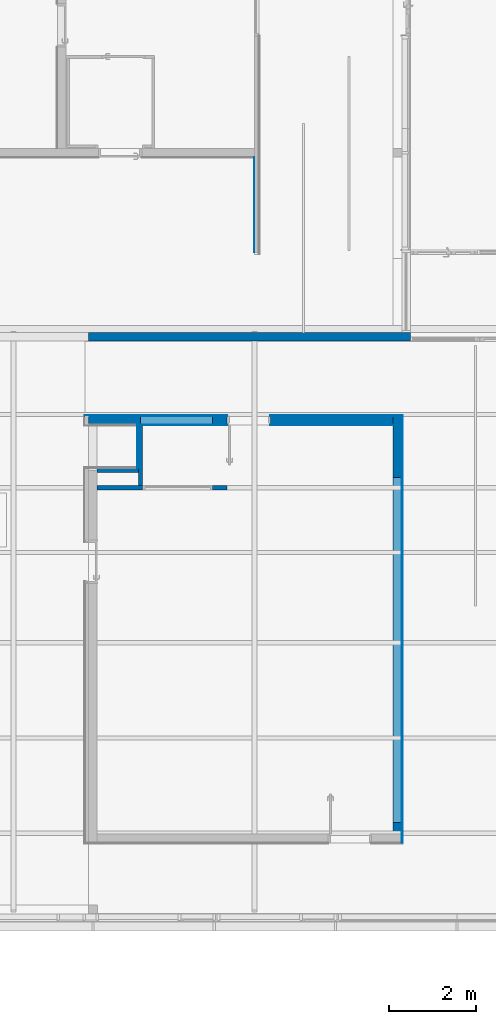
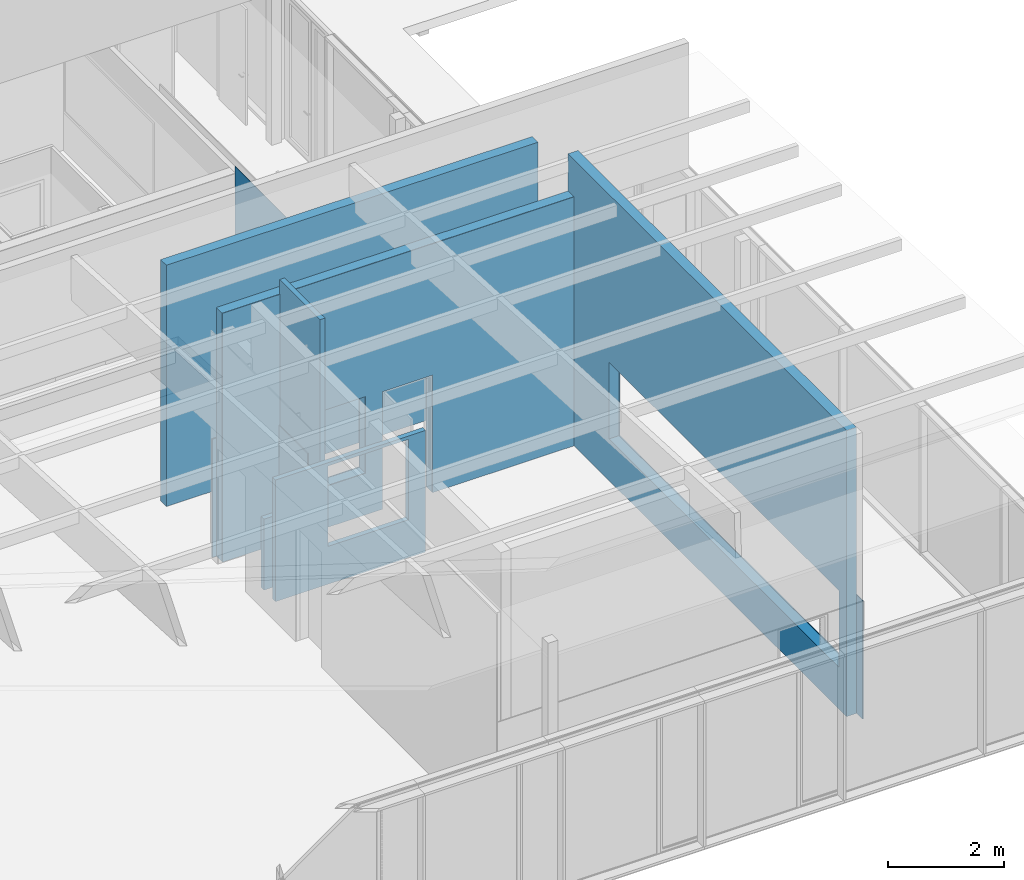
# One storey, part 91 of 240: 15 walls, 9 openings.
"""IFC2X3 building model written with IfcOpenShell, lengths in centimetres."""

from ifc_helpers import new_model, entity, si_unit, converted_unit, derived_unit, direction, frame, frame_2d, origin, place, context, subcontext, project, spatial, rectangle, extrude, material, layer, layer_set, layer_usage, type_object, element, save


model = new_model("IFC2X3")

# Units and contexts
model_context = context("Model", 3, precision=0.001, world=origin(), true_north=direction((6.12303176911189e-17, 1.0)))
body_context = subcontext(model_context, "Body", "Model", "MODEL_VIEW")
ifc_project = project(units=[si_unit("LENGTHUNIT", "METRE", prefix="CENTI"), si_unit("AREAUNIT", "SQUARE_METRE"), si_unit("VOLUMEUNIT", "CUBIC_METRE"), converted_unit("PLANEANGLEUNIT", "DEGREE", entity("IfcRatioMeasure", 0.0174532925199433), si_unit("PLANEANGLEUNIT", "RADIAN"), dimensions=[0, 0, 0, 0, 0, 0, 0]), si_unit("MASSUNIT", "GRAM", prefix="KILO"), derived_unit("MASSDENSITYUNIT", [(si_unit("MASSUNIT", "GRAM", prefix="KILO"), 1), (si_unit("LENGTHUNIT", "METRE"), -3)]), si_unit("TIMEUNIT", "SECOND"), si_unit("FREQUENCYUNIT", "HERTZ"), si_unit("THERMODYNAMICTEMPERATUREUNIT", "DEGREE_CELSIUS"), derived_unit("THERMALTRANSMITTANCEUNIT", [(si_unit("MASSUNIT", "GRAM", prefix="KILO"), 1), (si_unit("THERMODYNAMICTEMPERATUREUNIT", "KELVIN"), -1), (si_unit("TIMEUNIT", "SECOND"), -3)]), derived_unit("VOLUMETRICFLOWRATEUNIT", [(si_unit("LENGTHUNIT", "METRE"), 3), (si_unit("TIMEUNIT", "SECOND"), -1)]), si_unit("ELECTRICCURRENTUNIT", "AMPERE"), si_unit("ELECTRICVOLTAGEUNIT", "VOLT"), si_unit("POWERUNIT", "WATT"), si_unit("FORCEUNIT", "NEWTON", prefix="KILO"), si_unit("ILLUMINANCEUNIT", "LUX"), si_unit("LUMINOUSFLUXUNIT", "LUMEN"), si_unit("LUMINOUSINTENSITYUNIT", "CANDELA"), derived_unit("USERDEFINED", [(si_unit("MASSUNIT", "GRAM", prefix="KILO"), -1), (si_unit("LENGTHUNIT", "METRE"), -2), (si_unit("TIMEUNIT", "SECOND"), 3), (si_unit("LUMINOUSFLUXUNIT", "LUMEN"), 1)]), derived_unit("LINEARVELOCITYUNIT", [(si_unit("LENGTHUNIT", "METRE"), 1), (si_unit("TIMEUNIT", "SECOND"), -1)]), si_unit("PRESSUREUNIT", "PASCAL"), derived_unit("USERDEFINED", [(si_unit("LENGTHUNIT", "METRE"), -2), (si_unit("MASSUNIT", "GRAM", prefix="KILO"), 1), (si_unit("TIMEUNIT", "SECOND"), -2)])], contexts=[model_context])

# Site, building, storey
site_placement = place(None, frame((-2781.94577612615, 7442.24238424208, 0.0)))
site = spatial("IfcSite", under=ifc_project, at=site_placement, Name="Default", CompositionType="ELEMENT")
building_placement = place(site_placement, origin())
building = spatial("IfcBuilding", under=site, at=building_placement, CompositionType="ELEMENT")
storey_placement = place(building_placement, origin())
storey = spatial("IfcBuildingStorey", under=building, at=storey_placement, Name="N00 - COO", CompositionType="ELEMENT", Elevation=0.0)

# Wall
ifc_material_1 = material(Name="01 - Maçonnerie")
ifc_layer_1 = layer(ifc_material_1, 20.0)
ifc_layer_set_1 = layer_set([ifc_layer_1], Name="Mur de base:04 - Structure - béton - 20cm")
ifc_layer_usage_1 = layer_usage(ifc_layer_set_1, "AXIS2", "NEGATIVE", 10.0)
wall_type_1 = type_object("IfcWallType", Name="Mur de base:04 - Structure - béton - 20cm", PredefinedType="STANDARD", material=ifc_layer_set_1)
wall_1_placement = place(building_placement, frame((-9624.98738089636, -4215.50027342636, 0.0)))
element("IfcWallStandardCase", 1, at=wall_1_placement, inside=storey, type_object=wall_type_1, material=ifc_layer_usage_1, Name="Mur de base:04 - Structure - béton - 20cm", ObjectType="Mur de base:04 - Structure - béton - 20cm", context=body_context, shape_type="SweptSolid", body=[
    extrude(rectangle(XDim=743.000000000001, YDim=20.0000000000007, at=frame_2d((371.5, 2.1316282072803e-14), x_axis=(-1.0, 0.0))), origin(), (0.0, 0.0, 1.0), 510.0),
])

# Wall, openings
ifc_layer_usage_2 = layer_usage(ifc_layer_set_1, "AXIS2", "NEGATIVE", 10.0)
wall_2_placement = place(building_placement, frame((-9624.98738089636, -4408.50027342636, 0.0)))
wall_2 = element("IfcWallStandardCase", 2, at=wall_2_placement, inside=storey, type_object=wall_type_1, material=ifc_layer_usage_2, Name="Mur de base:04 - Structure - béton - 20cm", ObjectType="Mur de base:04 - Structure - béton - 20cm", context=body_context, shape_type="SweptSolid", body=[
    extrude(rectangle(XDim=702.999999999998, YDim=20.0000000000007, at=frame_2d((351.499999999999, 0.0), x_axis=(-1.0, 0.0))), origin(), (0.0, 0.0, 1.0), 526.0),
])
opening_1_placement = place(wall_2_placement, origin())
element("IfcOpeningElement", 3, at=opening_1_placement, cuts=wall_2, Name="Mur de base:04 - Structure - béton - 20cm", ObjectType="Opening", context=body_context, shape_type="SweptSolid", body=[
    extrude(rectangle(XDim=162.0, YDim=165.999999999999, at=frame_2d((0.0, -8.66862137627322e-13), x_axis=(1.0, 0.0))), frame((203.0, -10.0, 169.0), z_axis=(0.0, 1.0, 0.0), x_axis=(0.0, 0.0, -1.0)), (0.0, 0.0, 1.0), 20.0000000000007),
])
opening_2_placement = place(wall_2_placement, frame((420.0, 10.0, 0.0)))
element("IfcOpeningElement", 4, at=opening_2_placement, cuts=wall_2, Name="Int. Simple:PP (0.93m x 2.50m):1", ObjectType="Opening", context=body_context, shape_type="SweptSolid", body=[
    extrude(rectangle(XDim=248.500000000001, YDim=99.9999999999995, at=frame_2d((124.250000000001, 49.9999999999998), x_axis=(1.0, 0.0))), frame((0.0, 0.0, 0.0), z_axis=(0.0, -1.0, 0.0), x_axis=(0.0, 0.0, 1.0)), (0.0, 0.0, 1.0), 20.0),
])

# Wall, opening
ifc_layer_usage_3 = layer_usage(ifc_layer_set_1, "AXIS2", "NEGATIVE", 10.0)
wall_3_placement = place(building_placement, frame((-8911.98738089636, -4398.50027342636, 0.0), z_axis=(0.0, 0.0, 1.0), x_axis=(0.0, -1.0, 0.0)))
wall_3 = element("IfcWallStandardCase", 5, at=wall_3_placement, inside=storey, type_object=wall_type_1, material=ifc_layer_usage_3, Name="Mur de base:04 - Structure - béton - 20cm", ObjectType="Mur de base:04 - Structure - béton - 20cm", context=body_context, shape_type="SweptSolid", body=[
    extrude(rectangle(XDim=964.999999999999, YDim=19.9999999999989, at=frame_2d((482.499999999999, 0.0), x_axis=(-1.0, 0.0))), origin(), (0.0, 0.0, 1.0), 604.608853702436),
])
opening_3_placement = place(wall_3_placement, origin())
element("IfcOpeningElement", 6, at=opening_3_placement, cuts=wall_3, Name="Mur de base:04 - Structure - béton - 20cm", ObjectType="Opening", context=body_context, shape_type="SweptSolid", body=[
    extrude(rectangle(XDim=162.030914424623, YDim=796.119975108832, at=frame_2d((-1.4210854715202e-14, 0.0), x_axis=(1.0, 0.0))), frame((540.224328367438, -10.0, 169.015457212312), z_axis=(0.0, 1.0, 0.0), x_axis=(0.0, 0.0, -1.0)), (0.0, 0.0, 1.0), 19.9999999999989),
])

# Wall
ifc_material_2 = material(Name="01 - Enduit/Plâtre")
ifc_layer_2 = layer(ifc_material_2, 1.3)
ifc_material_3 = material(Name="00 - Isolant")
ifc_layer_3 = layer(ifc_material_3, 7.4)
ifc_layer_4 = layer(ifc_material_2, 1.3)
ifc_layer_set_2 = layer_set([ifc_layer_2, ifc_layer_3, ifc_layer_4], Name="Mur de base:06 - cloisons - Ba13 10cm")
ifc_layer_usage_4 = layer_usage(ifc_layer_set_2, "AXIS2", "NEGATIVE", 5.0)
wall_type_2 = type_object("IfcWallType", Name="Mur de base:06 - cloisons - Ba13 10cm", PredefinedType="STANDARD", material=ifc_layer_set_2)
wall_4_placement = place(building_placement, frame((-9504.98738089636, -4418.50027342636, 0.0), z_axis=(0.0, 0.0, 1.0), x_axis=(0.0, -1.0, 0.0)))
element("IfcWallStandardCase", 7, at=wall_4_placement, inside=storey, type_object=wall_type_2, material=ifc_layer_usage_4, Name="Mur de base:06 - cloisons - Ba13 10cm", ObjectType="Mur de base:06 - cloisons - Ba13 10cm", context=body_context, shape_type="SweptSolid", body=[
    extrude(rectangle(XDim=139.999999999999, YDim=10.0000000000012, at=frame_2d((69.9999999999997, -2.17603712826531e-13), x_axis=(-1.0, 0.0))), origin(), (0.0, 0.0, 1.0), 556.795445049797),
])

# Wall, opening
ifc_layer_usage_5 = layer_usage(ifc_layer_set_2, "AXIS2", "NEGATIVE", 5.0)
wall_5_placement = place(building_placement, frame((-9304.98738089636, -4563.50027342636, 0.0), z_axis=(0.0, 0.0, 1.0), x_axis=(-1.0, 0.0, 0.0)))
wall_5 = element("IfcWallStandardCase", 8, at=wall_5_placement, inside=storey, type_object=wall_type_2, material=ifc_layer_usage_5, Name="Mur de base:06 - cloisons - Ba13 10cm", ObjectType="Mur de base:06 - cloisons - Ba13 10cm", context=body_context, shape_type="SweptSolid", body=[
    extrude(rectangle(XDim=299.999999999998, YDim=9.99999999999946, at=frame_2d((149.999999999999, 0.0), x_axis=(-1.0, 0.0))), origin(), (0.0, 0.0, 1.0), 257.0),
])
opening_4_placement = place(wall_5_placement, frame((34.0, -5.0, 80.0)))
element("IfcOpeningElement", 9, at=opening_4_placement, cuts=wall_5, Name="châssis intérieur vitré:châssis intérieur vitré (h=170):1", ObjectType="Opening", context=body_context, shape_type="SweptSolid", body=[
    extrude(rectangle(XDim=170.0, YDim=160.917641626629, at=frame_2d((84.9999999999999, 80.4588208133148), x_axis=(1.0, 0.0))), frame((0.0, 0.0, 0.0), z_axis=(0.0, 1.0, 0.0), x_axis=(0.0, 0.0, 1.0)), (0.0, 0.0, 1.0), 10.0),
])

# Wall
ifc_layer_usage_6 = layer_usage(ifc_layer_set_2, "AXIS2", "NEGATIVE", 5.0)
wall_6_placement = place(building_placement, frame((-9509.98738089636, -4523.50027342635, 0.0), z_axis=(0.0, 0.0, 1.0), x_axis=(-1.0, 0.0, 0.0)))
element("IfcWallStandardCase", 10, at=wall_6_placement, inside=storey, type_object=wall_type_2, material=ifc_layer_usage_6, Name="Mur de base:06 - cloisons - Ba13 10cm", ObjectType="Mur de base:06 - cloisons - Ba13 10cm", context=body_context, shape_type="SweptSolid", body=[
    extrude(rectangle(XDim=94.9999999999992, YDim=9.99999999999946, at=frame_2d((47.4999999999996, 0.0), x_axis=(-1.0, 0.0))), origin(), (0.0, 0.0, 1.0), 150.0),
])

# Wall, opening
ifc_material_4 = material(Name="CP bouleau perforé")
ifc_layer_5 = layer(ifc_material_4, 2.0)
ifc_layer_set_3 = layer_set([ifc_layer_5], Name="Mur de base:06 - habillage bois collée 2cm perforé")
ifc_layer_usage_7 = layer_usage(ifc_layer_set_3, "AXIS2", "NEGATIVE", 1.0)
wall_type_3 = type_object("IfcWallType", Name="Mur de base:06 - habillage bois collée 2cm perforé", PredefinedType="STANDARD", material=ifc_layer_set_3)
wall_7_placement = place(building_placement, frame((-9632.98738089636, -4397.50027342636, 0.0)))
wall_7 = element("IfcWallStandardCase", 11, at=wall_7_placement, inside=storey, type_object=wall_type_3, material=ifc_layer_usage_7, Name="Mur de base:06 - habillage bois collée 2cm perforé", ObjectType="Mur de base:06 - habillage bois collée 2cm perforé", context=body_context, shape_type="SweptSolid", body=[
    extrude(rectangle(XDim=132.999999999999, YDim=1.99999999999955, at=frame_2d((66.4999999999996, 2.40918396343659e-14), x_axis=(-1.0, 0.0))), origin(), (0.0, 0.0, 1.0), 250.0),
])
opening_5_placement = place(wall_7_placement, origin())
element("IfcOpeningElement", 12, at=opening_5_placement, cuts=wall_7, Name="Mur de base:06 - habillage bois collée 2cm perforé", ObjectType="Opening", context=body_context, shape_type="SweptSolid", body=[
    extrude(rectangle(XDim=248.500000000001, YDim=99.9999999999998, at=frame_2d((0.0, 8.66862137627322e-13), x_axis=(1.0, 0.0))), frame((378.0, -173.399999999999, 124.250000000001), z_axis=(0.0, 1.0, 0.0), x_axis=(0.0, 0.0, 1.0)), (0.0, 0.0, 1.0), 304.8),
])

# Walls
ifc_layer_usage_8 = layer_usage(ifc_layer_set_3, "AXIS2", "NEGATIVE", 1.0)
wall_8_placement = place(building_placement, frame((-8900.98738089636, -5336.66461423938, 0.0), z_axis=(0.0, 0.0, 1.0), x_axis=(0.0, 1.0, 0.0)))
element("IfcWallStandardCase", 13, at=wall_8_placement, inside=storey, type_object=wall_type_3, material=ifc_layer_usage_8, Name="Mur de base:06 - habillage bois collée 2cm perforé", ObjectType="Mur de base:06 - habillage bois collée 2cm perforé", context=body_context, shape_type="SweptSolid", body=[
    extrude(rectangle(XDim=796.0, YDim=1.99999999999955, at=frame_2d((398.0, -4.90718576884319e-14), x_axis=(-1.0, 0.0))), origin(), (0.0, 0.0, 1.0), 87.9999999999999),
])
ifc_layer_usage_9 = layer_usage(ifc_layer_set_3, "AXIS2", "NEGATIVE", 1.0)
wall_9_placement = place(building_placement, frame((-8900.98738089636, -5336.66461423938, 0.0), z_axis=(0.0, 0.0, 1.0), x_axis=(0.0, -1.0, 0.0)))
element("IfcWallStandardCase", 14, at=wall_9_placement, inside=storey, type_object=wall_type_3, material=ifc_layer_usage_9, Name="Mur de base:06 - habillage bois collée 2cm perforé", ObjectType="Mur de base:06 - habillage bois collée 2cm perforé", context=body_context, shape_type="SweptSolid", body=[
    extrude(rectangle(XDim=46.8356591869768, YDim=1.99999999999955, at=frame_2d((23.4178295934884, 0.0), x_axis=(-1.0, 0.0))), origin(), (0.0, 0.0, 1.0), 250.0),
])
ifc_layer_usage_10 = layer_usage(ifc_layer_set_3, "AXIS2", "NEGATIVE", 1.0)
wall_10_placement = place(building_placement, frame((-8900.98738089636, -4398.50027342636, 0.0), z_axis=(0.0, 0.0, 1.0), x_axis=(0.0, -1.0, 0.0)))
element("IfcWallStandardCase", 15, at=wall_10_placement, inside=storey, type_object=wall_type_3, material=ifc_layer_usage_10, Name="Mur de base:06 - habillage bois collée 2cm perforé", ObjectType="Mur de base:06 - habillage bois collée 2cm perforé", context=body_context, shape_type="SweptSolid", body=[
    extrude(rectangle(XDim=142.164340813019, YDim=1.99999999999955, at=frame_2d((71.0821704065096, 0.0), x_axis=(-1.0, 0.0))), origin(), (0.0, 0.0, 1.0), 250.0),
])

# Wall, opening
ifc_layer_usage_11 = layer_usage(ifc_layer_set_3, "AXIS2", "NEGATIVE", 1.0)
wall_11_placement = place(building_placement, frame((-9338.98738089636, -4397.50027342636, 0.0)))
wall_11 = element("IfcWallStandardCase", 16, at=wall_11_placement, inside=storey, type_object=wall_type_3, material=ifc_layer_usage_11, Name="Mur de base:06 - habillage bois collée 2cm perforé", ObjectType="Mur de base:06 - habillage bois collée 2cm perforé", context=body_context, shape_type="SweptSolid", body=[
    extrude(rectangle(XDim=439.000000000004, YDim=1.99999999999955, at=frame_2d((219.500000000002, 9.43689570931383e-16), x_axis=(-1.0, 0.0))), origin(), (0.0, 0.0, 1.0), 250.0),
])
opening_6_placement = place(wall_11_placement, origin())
element("IfcOpeningElement", 17, at=opening_6_placement, cuts=wall_11, Name="Mur de base:06 - habillage bois collée 2cm perforé", ObjectType="Opening", context=body_context, shape_type="SweptSolid", body=[
    extrude(rectangle(XDim=248.500000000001, YDim=99.9999999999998, at=frame_2d((0.0, 8.66862137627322e-13), x_axis=(1.0, 0.0))), frame((84.0, -173.4, 124.250000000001), z_axis=(0.0, 1.0, 0.0), x_axis=(0.0, 0.0, 1.0)), (0.0, 0.0, 1.0), 304.8),
])

# Walls
ifc_layer_usage_12 = layer_usage(ifc_layer_set_3, "AXIS2", "NEGATIVE", 1.0)
wall_12_placement = place(building_placement, frame((-9499.98738089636, -4397.50027342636, 0.0)))
element("IfcWallStandardCase", 18, at=wall_12_placement, inside=storey, type_object=wall_type_3, material=ifc_layer_usage_12, Name="Mur de base:06 - habillage bois collée 2cm perforé", ObjectType="Mur de base:06 - habillage bois collée 2cm perforé", context=body_context, shape_type="SweptSolid", body=[
    extrude(rectangle(XDim=160.999999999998, YDim=1.99999999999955, at=frame_2d((80.499999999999, 0.0), x_axis=(-1.0, 0.0))), origin(), (0.0, 0.0, 1.0), 88.0),
])
ifc_layer_usage_13 = layer_usage(ifc_layer_set_3, "AXIS2", "NEGATIVE", 1.0)
wall_13_placement = place(building_placement, frame((-9510.98738089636, -4418.50027342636, 0.0), z_axis=(0.0, 0.0, 1.0), x_axis=(0.0, -1.0, 0.0)))
element("IfcWallStandardCase", 19, at=wall_13_placement, inside=storey, type_object=wall_type_3, material=ifc_layer_usage_13, Name="Mur de base:06 - habillage bois collée 2cm perforé", ObjectType="Mur de base:06 - habillage bois collée 2cm perforé", context=body_context, shape_type="SweptSolid", body=[
    extrude(rectangle(XDim=99.9999999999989, YDim=1.99999999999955, at=frame_2d((49.9999999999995, 0.0), x_axis=(-1.0, 0.0))), origin(), (0.0, 0.0, 1.0), 250.0),
])

# Wall, openings
ifc_material_5 = material(Name="01 - Faïence sanitaires")
ifc_layer_6 = layer(ifc_material_5, 1.0)
ifc_layer_set_4 = layer_set([ifc_layer_6], Name="Mur de base:04 - Parement - faïence 1cm")
ifc_layer_usage_14 = layer_usage(ifc_layer_set_4, "AXIS2", "NEGATIVE", 0.5)
wall_type_4 = type_object("IfcWallType", Name="Mur de base:04 - Parement - faïence 1cm", PredefinedType="STANDARD", material=ifc_layer_set_4)
wall_14_placement = place(storey_placement, frame((-9624.98738089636, -4419.00027342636, 0.0)))
wall_14 = element("IfcWallStandardCase", 20, at=wall_14_placement, inside=storey, type_object=wall_type_4, material=ifc_layer_usage_14, Name="Mur de base:04 - Parement - faïence 1cm", ObjectType="Mur de base:04 - Parement - faïence 1cm", context=body_context, shape_type="SweptSolid", body=[
    extrude(rectangle(XDim=702.999999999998, YDim=0.999999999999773, at=frame_2d((351.499999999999, 0.0), x_axis=(-1.0, 0.0))), origin(), (0.0, 0.0, 1.0), 526.0),
])
opening_7_placement = place(wall_14_placement, origin())
element("IfcOpeningElement", 21, at=opening_7_placement, cuts=wall_14, Name="Mur de base:04 - Parement - faïence 1cm", ObjectType="Opening", context=body_context, shape_type="SweptSolid", body=[
    extrude(rectangle(XDim=162.0, YDim=165.999999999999, at=frame_2d((0.0, -8.66862137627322e-13), x_axis=(1.0, 0.0))), frame((203.0, -0.499999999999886, 169.0), z_axis=(0.0, 1.0, 0.0), x_axis=(0.0, 0.0, -1.0)), (0.0, 0.0, 1.0), 0.999999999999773),
])
opening_8_placement = place(wall_14_placement, origin())
element("IfcOpeningElement", 22, at=opening_8_placement, cuts=wall_14, Name="Mur de base:04 - Parement - faïence 1cm", ObjectType="Opening", context=body_context, shape_type="SweptSolid", body=[
    extrude(rectangle(XDim=248.500000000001, YDim=99.9999999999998, at=frame_2d((0.0, 8.66862137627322e-13), x_axis=(1.0, 0.0))), frame((370.0, -151.900000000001, 124.250000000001), z_axis=(0.0, 1.0, 0.0), x_axis=(0.0, 0.0, 1.0)), (0.0, 0.0, 1.0), 304.8),
])

# Wall, opening
ifc_layer_usage_15 = layer_usage(ifc_layer_set_4, "AXIS2", "NEGATIVE", 0.5)
wall_15_placement = place(building_placement, frame((-9242.432180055, -4020.57903364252, 0.0), z_axis=(0.0, 0.0, 1.0), x_axis=(0.0, 1.0, 0.0)))
wall_15 = element("IfcWallStandardCase", 23, at=wall_15_placement, inside=storey, type_object=wall_type_4, material=ifc_layer_usage_15, Name="Mur de base:04 - Parement - faïence 1cm", ObjectType="Mur de base:04 - Parement - faïence 1cm", context=body_context, shape_type="SweptSolid", body=[
    extrude(rectangle(XDim=219.859372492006, YDim=0.999999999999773, at=frame_2d((109.929686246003, 0.0), x_axis=(-1.0, 0.0))), origin(), (0.0, 0.0, 1.0), 328.0),
])
opening_9_placement = place(wall_15_placement, origin())
element("IfcOpeningElement", 24, at=opening_9_placement, cuts=wall_15, Name="Mur de base:04 - Parement - faïence 1cm", ObjectType="Opening", context=body_context, shape_type="SweptSolid", body=[
    extrude(rectangle(XDim=170.0, YDim=315.692772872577, at=frame_2d((-2.1316282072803e-13, 0.0), x_axis=(0.0, 1.0))), frame((657.653613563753, -152.9, 165.0), z_axis=(0.0, 1.0, 0.0), x_axis=(-1.0, 0.0, 0.0)), (0.0, 0.0, 1.0), 304.8),
])

save(model, "model.ifc")
